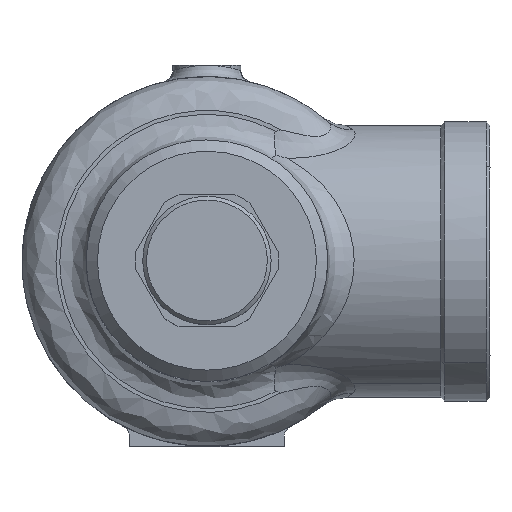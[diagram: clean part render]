
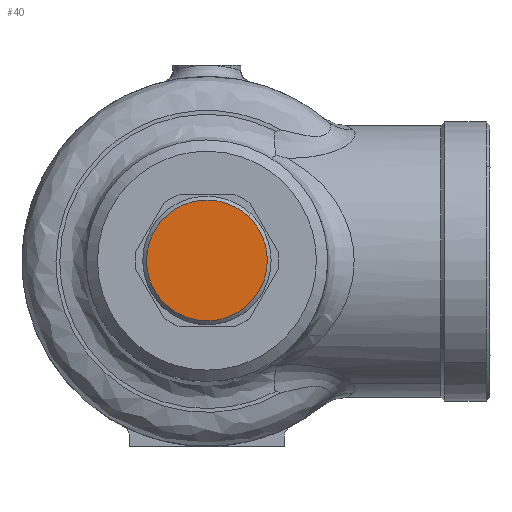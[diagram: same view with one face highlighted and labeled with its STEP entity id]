
A CAD part, top view. The second image highlights one B-rep face of the part: STEP entity #40.
In plain terms, the highlighted planar face has unit normal (0, 0, 1).
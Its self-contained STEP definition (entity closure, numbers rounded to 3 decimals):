
#40=ADVANCED_FACE('',(#131),#130,.F.);
#130=PLANE('',#1040);
#131=FACE_OUTER_BOUND('',#1041,.T.);
#1037=CARTESIAN_POINT('',(85.452,-19.2,-134.271));
#1038=DIRECTION('',(0.,0.,-1.));
#1039=DIRECTION('',(-1.,0.,0.));
#1040=AXIS2_PLACEMENT_3D('',#1037,#1038,#1039);
#1041=EDGE_LOOP('',(#2451,#2452,#2453,#2454,#2455,#2456,#2457,#2458));
#2451=ORIENTED_EDGE('',*,*,#3119,.F.);
#2452=ORIENTED_EDGE('',*,*,#3120,.F.);
#2453=ORIENTED_EDGE('',*,*,#3121,.F.);
#2454=ORIENTED_EDGE('',*,*,#3122,.F.);
#2455=ORIENTED_EDGE('',*,*,#3123,.F.);
#2456=ORIENTED_EDGE('',*,*,#3124,.F.);
#2457=ORIENTED_EDGE('',*,*,#3125,.F.);
#2458=ORIENTED_EDGE('',*,*,#3126,.F.);
#3119=EDGE_CURVE('',#3453,#3454,#3455,.T.);
#3120=EDGE_CURVE('',#3461,#3453,#3462,.T.);
#3121=EDGE_CURVE('',#3468,#3461,#3469,.T.);
#3122=EDGE_CURVE('',#3475,#3468,#3476,.T.);
#3123=EDGE_CURVE('',#3482,#3475,#3483,.T.);
#3124=EDGE_CURVE('',#3489,#3482,#3490,.T.);
#3125=EDGE_CURVE('',#3496,#3489,#3497,.T.);
#3126=EDGE_CURVE('',#3454,#3496,#3503,.T.);
#3453=VERTEX_POINT('',#5710);
#3454=VERTEX_POINT('',#5711);
#3455=(BOUNDED_CURVE() B_SPLINE_CURVE(3,(#5712,#5713,#5714,#5715,#5716,#5717,#5718,#5719),.UNSPECIFIED.,.F.,.F.) B_SPLINE_CURVE_WITH_KNOTS((4,1,1,1,1,4),(12.148,12.37,14.923,18.653,21.991,25.133),.UNSPECIFIED.) CURVE() GEOMETRIC_REPRESENTATION_ITEM() RATIONAL_B_SPLINE_CURVE((1.,1.,1.,1.,1.,1.,1.,1.)) REPRESENTATION_ITEM('') );
#3461=VERTEX_POINT('',#5720);
#3462=(BOUNDED_CURVE() B_SPLINE_CURVE(3,(#5721,#5722,#5723,#5724,#5725,#5726,#5727),.UNSPECIFIED.,.F.,.F.) B_SPLINE_CURVE_WITH_KNOTS((4,1,1,1,4),(0.,3.534,6.087,8.836,12.148),.UNSPECIFIED.) CURVE() GEOMETRIC_REPRESENTATION_ITEM() RATIONAL_B_SPLINE_CURVE((1.,1.,1.,1.,1.,1.,1.)) REPRESENTATION_ITEM('') );
#3468=VERTEX_POINT('',#5728);
#3469=(BOUNDED_CURVE() B_SPLINE_CURVE(3,(#5729,#5730,#5731,#5732,#5733,#5734,#5735),.UNSPECIFIED.,.F.,.F.) B_SPLINE_CURVE_WITH_KNOTS((4,1,1,1,4),(0.,4.261,7.101,9.536,12.985),.UNSPECIFIED.) CURVE() GEOMETRIC_REPRESENTATION_ITEM() RATIONAL_B_SPLINE_CURVE((1.,1.,1.,1.,1.,1.,1.)) REPRESENTATION_ITEM('') );
#3475=VERTEX_POINT('',#5736);
#3476=(BOUNDED_CURVE() B_SPLINE_CURVE(3,(#5737,#5738,#5739,#5740,#5741,#5742,#5743),.UNSPECIFIED.,.F.,.F.) B_SPLINE_CURVE_WITH_KNOTS((4,1,1,1,4),(0.,2.657,5.315,7.592,12.148),.UNSPECIFIED.) CURVE() GEOMETRIC_REPRESENTATION_ITEM() RATIONAL_B_SPLINE_CURVE((1.,1.,1.,1.,1.,1.,1.)) REPRESENTATION_ITEM('') );
#3482=VERTEX_POINT('',#5744);
#3483=(BOUNDED_CURVE() B_SPLINE_CURVE(3,(#5745,#5746,#5747,#5748,#5749,#5750,#5751),.UNSPECIFIED.,.F.,.F.) B_SPLINE_CURVE_WITH_KNOTS((4,1,1,1,4),(12.148,14.923,18.064,21.991,25.133),.UNSPECIFIED.) CURVE() GEOMETRIC_REPRESENTATION_ITEM() RATIONAL_B_SPLINE_CURVE((1.,1.,1.,1.,1.,1.,1.)) REPRESENTATION_ITEM('') );
#3489=VERTEX_POINT('',#5752);
#3490=(BOUNDED_CURVE() B_SPLINE_CURVE(3,(#5753,#5754,#5755,#5756,#5757,#5758,#5759),.UNSPECIFIED.,.F.,.F.) B_SPLINE_CURVE_WITH_KNOTS((4,1,1,1,4),(0.,4.516,7.854,11.977,12.148),.UNSPECIFIED.) CURVE() GEOMETRIC_REPRESENTATION_ITEM() RATIONAL_B_SPLINE_CURVE((1.,1.,1.,1.,1.,1.,1.)) REPRESENTATION_ITEM('') );
#3496=VERTEX_POINT('',#5760);
#3497=(BOUNDED_CURVE() B_SPLINE_CURVE(3,(#5761,#5762,#5763,#5764,#5765,#5766),.UNSPECIFIED.,.F.,.F.) B_SPLINE_CURVE_WITH_KNOTS((4,1,1,4),(0.,4.667,8.319,12.985),.UNSPECIFIED.) CURVE() GEOMETRIC_REPRESENTATION_ITEM() RATIONAL_B_SPLINE_CURVE((1.,1.,1.,1.,1.,1.)) REPRESENTATION_ITEM('') );
#3503=CIRCLE('',#5770,16.);
#5710=CARTESIAN_POINT('',(55.239,-11.606,-134.271));
#5711=CARTESIAN_POINT('',(50.252,0.,-134.271));
#5712=CARTESIAN_POINT('',(55.239,-11.606,-134.271));
#5713=CARTESIAN_POINT('',(55.185,-11.555,-134.271));
#5714=CARTESIAN_POINT('',(54.518,-10.914,-134.271));
#5715=CARTESIAN_POINT('',(53.087,-9.275,-134.271));
#5716=CARTESIAN_POINT('',(51.478,-6.476,-134.271));
#5717=CARTESIAN_POINT('',(50.465,-3.207,-134.271));
#5718=CARTESIAN_POINT('',(50.252,-1.047,-134.271));
#5719=CARTESIAN_POINT('',(50.252,0.,-134.271));
#5720=CARTESIAN_POINT('',(66.252,-16.,-134.271));
#5721=CARTESIAN_POINT('',(66.252,-16.,-134.271));
#5722=CARTESIAN_POINT('',(65.074,-16.,-134.271));
#5723=CARTESIAN_POINT('',(63.045,-15.775,-134.271));
#5724=CARTESIAN_POINT('',(60.223,-14.9,-134.271));
#5725=CARTESIAN_POINT('',(57.649,-13.604,-134.271));
#5726=CARTESIAN_POINT('',(56.039,-12.366,-134.271));
#5727=CARTESIAN_POINT('',(55.239,-11.606,-134.271));
#5728=CARTESIAN_POINT('',(77.858,-11.014,-134.271));
#5729=CARTESIAN_POINT('',(77.858,-11.014,-134.271));
#5730=CARTESIAN_POINT('',(76.881,-12.044,-134.271));
#5731=CARTESIAN_POINT('',(75.021,-13.542,-134.271));
#5732=CARTESIAN_POINT('',(72.157,-14.949,-134.271));
#5733=CARTESIAN_POINT('',(69.363,-15.788,-134.271));
#5734=CARTESIAN_POINT('',(67.402,-16.,-134.271));
#5735=CARTESIAN_POINT('',(66.252,-16.,-134.271));
#5736=CARTESIAN_POINT('',(82.252,0.,-134.271));
#5737=CARTESIAN_POINT('',(82.252,0.,-134.271));
#5738=CARTESIAN_POINT('',(82.252,-0.886,-134.271));
#5739=CARTESIAN_POINT('',(82.105,-2.657,-134.271));
#5740=CARTESIAN_POINT('',(81.479,-5.118,-134.271));
#5741=CARTESIAN_POINT('',(80.234,-8.035,-134.271));
#5742=CARTESIAN_POINT('',(78.904,-9.913,-134.271));
#5743=CARTESIAN_POINT('',(77.858,-11.014,-134.271));
#5744=CARTESIAN_POINT('',(77.266,11.606,-134.271));
#5745=CARTESIAN_POINT('',(77.266,11.606,-134.271));
#5746=CARTESIAN_POINT('',(77.937,10.969,-134.271));
#5747=CARTESIAN_POINT('',(79.25,9.487,-134.271));
#5748=CARTESIAN_POINT('',(80.945,6.659,-134.271));
#5749=CARTESIAN_POINT('',(82.02,3.403,-134.271));
#5750=CARTESIAN_POINT('',(82.252,1.047,-134.271));
#5751=CARTESIAN_POINT('',(82.252,0.,-134.271));
#5752=CARTESIAN_POINT('',(66.252,16.,-134.271));
#5753=CARTESIAN_POINT('',(66.252,16.,-134.271));
#5754=CARTESIAN_POINT('',(67.758,16.001,-134.271));
#5755=CARTESIAN_POINT('',(70.375,15.628,-134.271));
#5756=CARTESIAN_POINT('',(74.094,14.114,-134.271));
#5757=CARTESIAN_POINT('',(76.182,12.625,-134.271));
#5758=CARTESIAN_POINT('',(77.225,11.645,-134.271));
#5759=CARTESIAN_POINT('',(77.266,11.606,-134.271));
#5760=CARTESIAN_POINT('',(54.646,11.014,-134.271));
#5761=CARTESIAN_POINT('',(54.646,11.014,-134.271));
#5762=CARTESIAN_POINT('',(55.717,12.143,-134.271));
#5763=CARTESIAN_POINT('',(57.921,13.873,-134.271));
#5764=CARTESIAN_POINT('',(61.924,15.592,-134.271));
#5765=CARTESIAN_POINT('',(64.697,16.001,-134.271));
#5766=CARTESIAN_POINT('',(66.252,16.,-134.271));
#5767=CARTESIAN_POINT('',(66.252,0.,-134.271));
#5768=DIRECTION('',(0.,0.,-1.));
#5769=DIRECTION('',(1.,0.,0.));
#5770=AXIS2_PLACEMENT_3D('',#5767,#5768,#5769);
